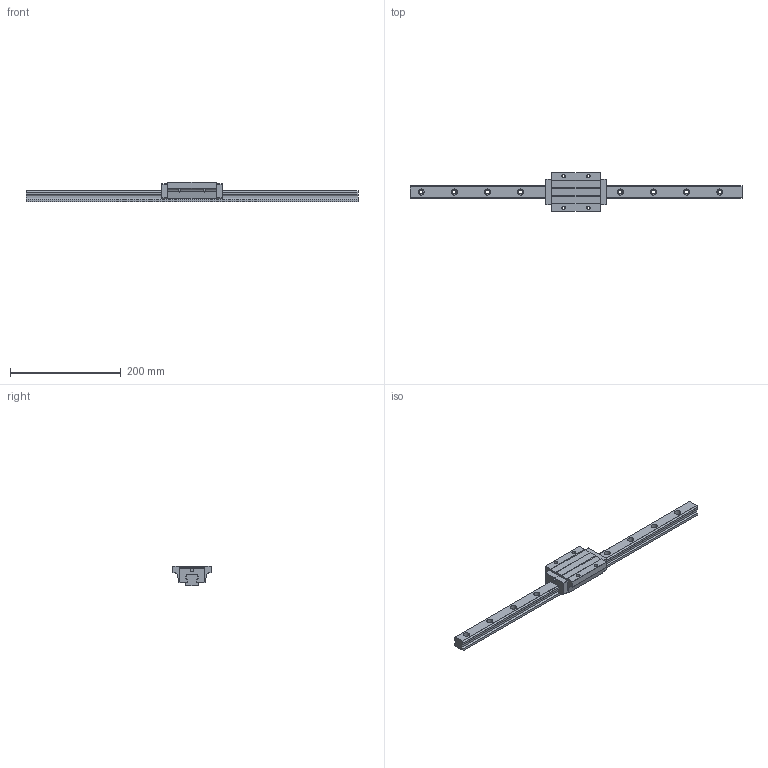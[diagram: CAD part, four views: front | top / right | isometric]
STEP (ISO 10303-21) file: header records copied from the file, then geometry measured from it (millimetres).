
FILE_DESCRIPTION (( 'STEP AP203' ), '1' );
FILE_NAME ('TRH25FE-XN-§ï.STEP', '2023-08-29T08:57:02', ( '' ), ( '' ), 'SwSTEP 2.0', 'SolidWorks 2022', '' );
FILE_SCHEMA (( 'CONFIG_CONTROL_DESIGN' ));
Length unit declared in the file: millimetre
Products named in the file (1): TRH25FE-XN-改
Bounding box: 600 x 70 x 36 mm (x, y, z)
Volume: 375983.7 mm3; surface area: 84475.2 mm2
Topology: 1 solids, 1 shells, 199 faces, 554 edges, 362 vertices
Faces by surface type: cylinder 108, plane 87, sphere 4
Entity records: 6851 total; most frequent: CARTESIAN_POINT 1476, DIRECTION 1136, ORIENTED_EDGE 1100, EDGE_CURVE 550, AXIS2_PLACEMENT_3D 406, VERTEX_POINT 362, VECTOR 324, LINE 324
